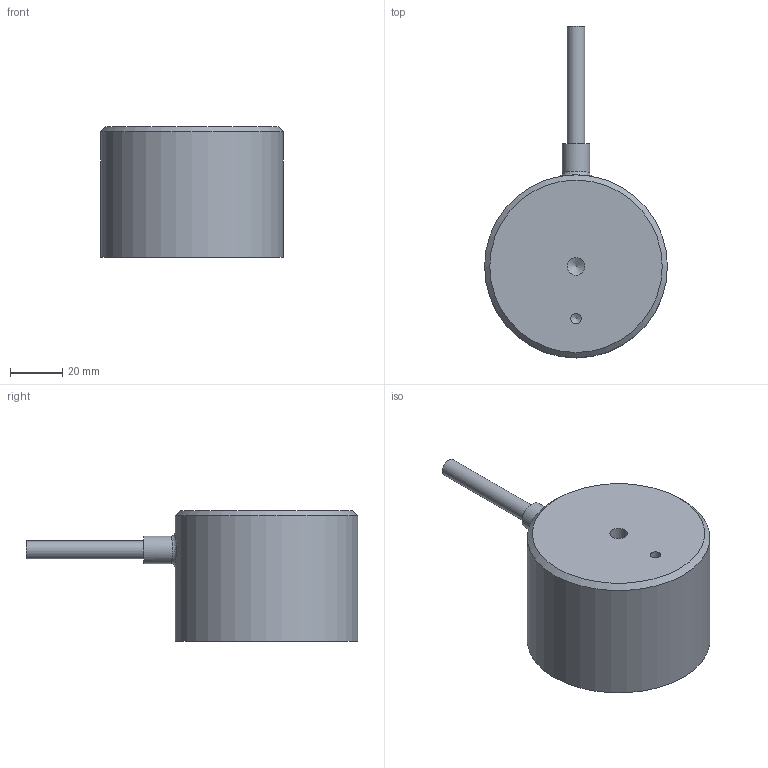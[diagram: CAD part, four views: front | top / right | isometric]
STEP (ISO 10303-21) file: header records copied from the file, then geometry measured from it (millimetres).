
FILE_DESCRIPTION(/* description */ (''),/* implementation_level */ '2;1');
FILE_NAME(/* name */ 'EMH-1-70Dx50H-S.step',/* time_stamp */ '2023-12-15T11:53:23+09:00',/* author */ (''),/* organization */ (''),/* preprocessor_version */ 'ST-DEVELOPER v20',/* originating_system */ 'Autodesk Translation Framework v12.14.0.127',/* authorisation */ '');
FILE_SCHEMA (('AUTOMOTIVE_DESIGN { 1 0 10303 214 3 1 1 }'));
Length unit declared in the file: millimetre
Products named in the file (3): EMH-1-70Dx50H-S; BODY; Cable
Assembly tree (2 placements, depth 2):
  EMH-1-70Dx50H-S
    BODY
    Cable
Bounding box: 70 x 127 x 50 mm (x, y, z)
Volume: 193603.2 mm3; surface area: 20284.8 mm2
Topology: 2 solids, 2 shells, 18 faces, 31 edges, 20 vertices
Faces by surface type: cylinder 7, plane 7, cone 3, bspline 1
Full cylindrical faces by diameter (mm): 4 x1, 6.779 x1, 6.8 x1, 10.5 x1, 30 x1, 62 x1, 70 x1
Entity records: 644 total; most frequent: CARTESIAN_POINT 184, DIRECTION 86, ORIENTED_EDGE 58, AXIS2_PLACEMENT_3D 38, EDGE_CURVE 29, EDGE_LOOP 23, VERTEX_POINT 20, FACE_OUTER_BOUND 18
